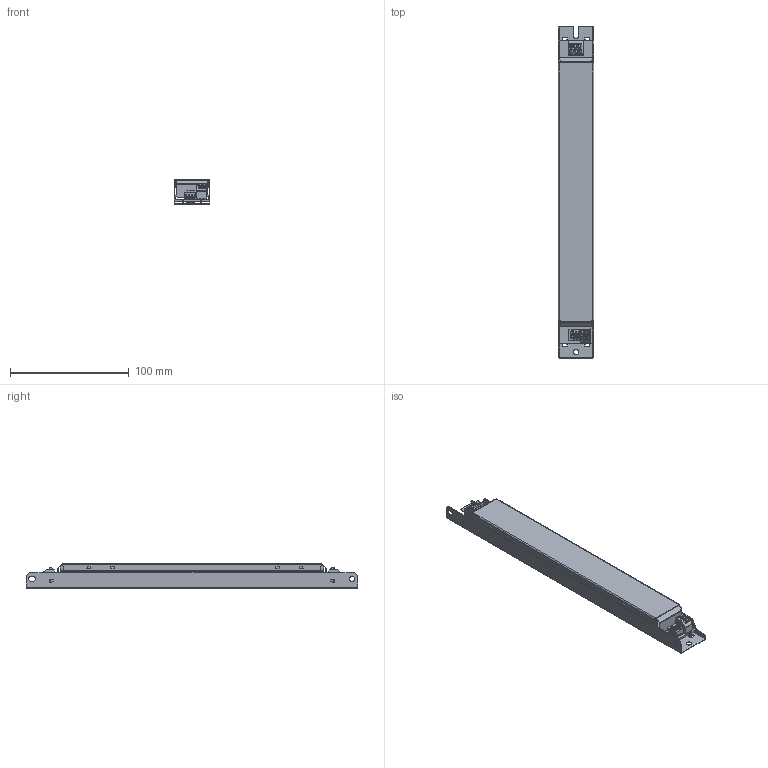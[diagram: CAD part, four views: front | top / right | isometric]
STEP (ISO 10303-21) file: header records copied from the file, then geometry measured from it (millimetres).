
FILE_DESCRIPTION (( 'STEP AP203' ), '1' );
FILE_NAME ('LL150HE-CC-350-700-DS.STEP', '2022-11-23T21:31:22', ( '' ), ( '' ), 'SwSTEP 2.0', 'SolidWorks 2021', '' );
FILE_SCHEMA (( 'CONFIG_CONTROL_DESIGN' ));
Length unit declared in the file: millimetre
Products named in the file (9): WAGO_LIITIN_3N_250_203-1^LL1x150-E-CC(2)_LL1x150-E-CC; NDS-04V; LIPARE^LL1x150-E-CC(2)_LL1x150-E-CC; 7660113-1^LL1x150-E-CC(2)_LL1x150-E-CC; KANSI_7660114-1^LL1x150-E-CC(2)_LL1x150-E-CC; MirrorLIPARE^LL1x150-E-CC(2)_LL1x150-E-CC; PCB_75727^LL1x150-E-CC(2)_LL1x150-E-CC; LL150HE-CC-350-700-DS; WAGO_LIITIN_2N_250_202-1^LL1x150-E-CC(2)_LL1x150-E-CC
Assembly tree (10 placements, depth 2):
  LL150HE-CC-350-700-DS
    7660113-1^LL1x150-E-CC(2)_LL1x150-E-CC
    PCB_75727^LL1x150-E-CC(2)_LL1x150-E-CC
    WAGO_LIITIN_3N_250_203-1^LL1x150-E-CC(2)_LL1x150-E-CC
    WAGO_LIITIN_2N_250_202-1^LL1x150-E-CC(2)_LL1x150-E-CC
    KANSI_7660114-1^LL1x150-E-CC(2)_LL1x150-E-CC
    LIPARE^LL1x150-E-CC(2)_LL1x150-E-CC  x2
    MirrorLIPARE^LL1x150-E-CC(2)_LL1x150-E-CC  x2
    NDS-04V
Bounding box: 30.08 x 280 x 20.8 mm (x, y, z)
Volume: 28252.5 mm3; surface area: 74485.9 mm2
Topology: 14 solids, 14 shells, 1516 faces, 4188 edges, 2735 vertices
Faces by surface type: plane 1086, cylinder 343, bspline 77, cone 10
Entity records: 50656 total; most frequent: CARTESIAN_POINT 11820, ORIENTED_EDGE 8232, DIRECTION 7308, EDGE_CURVE 4116, VECTOR 3286, LINE 3286, VERTEX_POINT 2687, AXIS2_PLACEMENT_3D 2011
